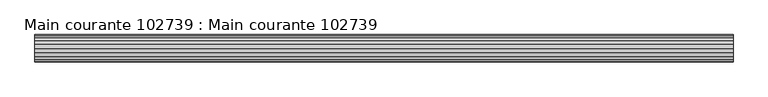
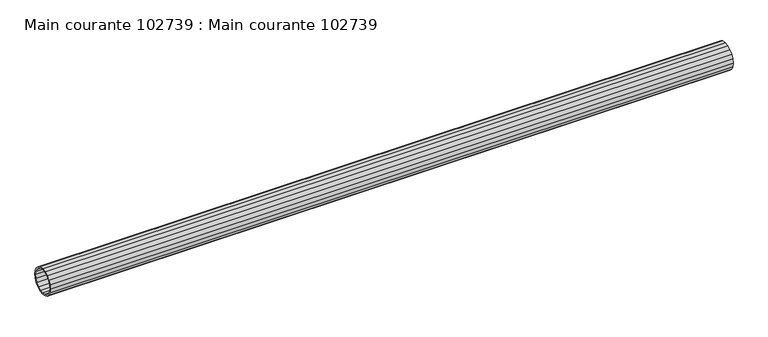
"""IFC4 building model written with IfcOpenShell, lengths in millimetres: beam geometry, Main courante 102739 : Main courante 102739."""

from ifc_helpers import new_model, si_unit, frame, origin, place, context, project, spatial, polyline, outline, extrude, source, transform, mapped, element, save


def main_courante_102739_main_courante_102739_ed40c3bb(model_context):
    return source(origin(), model_context, "Body", "SweptSolid", [
        extrude(outline(polyline([(-24956.0, 8765.0), (-24954.8180149, 8772.4627604), (-24951.3877604, 8779.1950138), (-24946.0450138, 8784.5377604), (-24939.3127604, 8787.9680149), (-24931.85, 8789.15), (-24924.3872396, 8787.9680149), (-24917.6549862, 8784.5377604), (-24912.3122396, 8779.1950138), (-24908.8819851, 8772.4627604), (-24907.7, 8765.0), (-24908.8819851, 8757.5372396), (-24912.3122396, 8750.8049862), (-24917.6549862, 8745.4622396), (-24924.3872396, 8742.0319851), (-24931.85, 8740.85), (-24939.3127604, 8742.0319851), (-24946.0450138, 8745.4622396), (-24951.3877604, 8750.8049862), (-24954.8180149, 8757.5372396), (-24956.0, 8765.0)]), holes=[polyline([(-24953.5, 8765.0), (-24952.4403736, 8758.3097821), (-24949.3652179, 8752.2744493), (-24944.5755507, 8747.4847821), (-24938.5402179, 8744.4096264), (-24931.85, 8743.35), (-24925.1597821, 8744.4096264), (-24919.1244493, 8747.4847821), (-24914.3347821, 8752.2744493), (-24911.2596264, 8758.3097821), (-24910.2, 8765.0), (-24911.2596264, 8771.6902179), (-24914.3347821, 8777.7255507), (-24919.1244493, 8782.5152179), (-24925.1597821, 8785.5903736), (-24931.85, 8786.65), (-24938.5402179, 8785.5903736), (-24944.5755507, 8782.5152179), (-24949.3652179, 8777.7255507), (-24952.4403736, 8771.6902179), (-24953.5, 8765.0)])]), frame((1238.4999999, 0.0, 0.0), z_axis=(1.0, 0.0, 0.0), x_axis=(0.0, 1.0, 0.0)), (0.0, 0.0, 1.0), 1228.0),
    ])


if __name__ == "__main__":
    model = new_model("IFC4")
    model_context = context("Model", 3, world=origin())
    ifc_project = project(units=[si_unit("LENGTHUNIT", "METRE", prefix="MILLI")], contexts=[model_context])
    site = spatial("IfcSite", under=ifc_project)
    building = spatial("IfcBuilding", under=site)
    placement = place(None, origin())
    main_courante_102739_main_courante_102739_shape = main_courante_102739_main_courante_102739_ed40c3bb(model_context)
    element("IfcBeam", 1, ObjectType="Main courante 102739 : Main courante 102739", at=placement, inside=building, context=model_context, shape_type="MappedRepresentation", body=[
        mapped(main_courante_102739_main_courante_102739_shape, transform((0.0, 0.0, 0.0), x_axis=(1.0, 0.0, 0.0), y_axis=(0.0, 1.0, 0.0), z_axis=(0.0, 0.0, 1.0))),
    ])
    save(model, "model.ifc")
